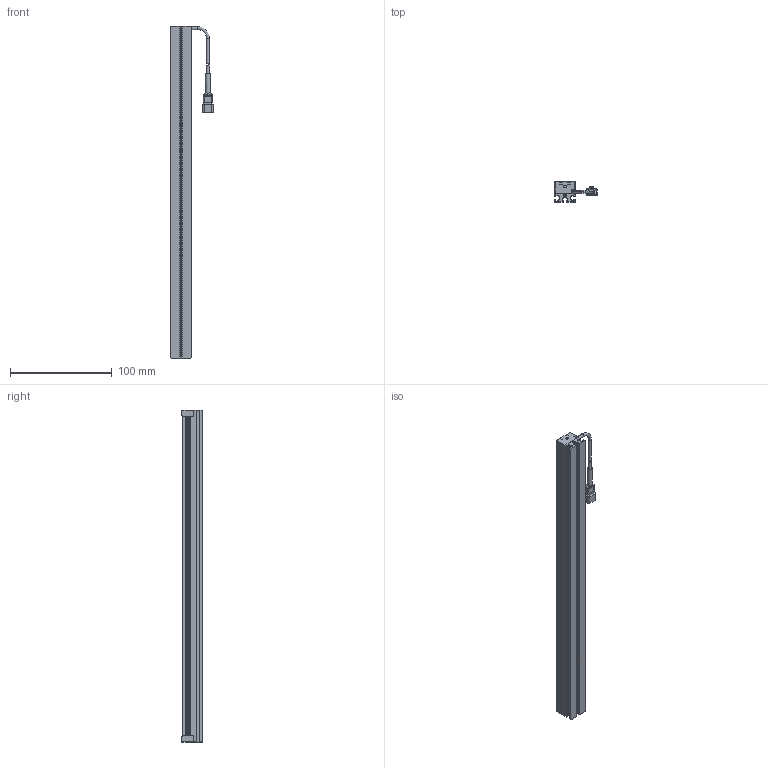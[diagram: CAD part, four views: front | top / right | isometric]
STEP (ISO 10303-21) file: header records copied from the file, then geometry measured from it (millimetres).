
FILE_DESCRIPTION (( 'STEP AP203' ), '1' );
FILE_NAME ('41x16_LDL2-314X16GR2.STEP', '2024-09-30T07:38:58', ( 'CCS' ), ( 'シーシーエス株式会社' ), 'SwSTEP 2.0', 'SolidWorks 2022', '' );
FILE_SCHEMA (( 'CONFIG_CONTROL_DESIGN' ));
Length unit declared in the file: millimetre
Products named in the file (7): 41x16_LDL2-314X16GR2; レンズ_LDL2-314X16GR2_11; SMケーブル_LDL2-314X16GR2_パターン2; ねじ_LDL2-314X16GR2_M2x12_CAP(三価ｸﾛﾑ黒色); ブロックA_LDL2-314X16GR2; フレーム_LDL2-314X16GR2; ブロックB_LDL2-314X16GR2
Assembly tree (9 placements, depth 2):
  41x16_LDL2-314X16GR2
    フレーム_LDL2-314X16GR2
    レンズ_LDL2-314X16GR2_11
    ブロックA_LDL2-314X16GR2
    ブロックB_LDL2-314X16GR2
    ねじ_LDL2-314X16GR2_M2x12_CAP(三価ｸﾛﾑ黒色)  x4
    SMケーブル_LDL2-314X16GR2_パターン2
Bounding box: 41.75 x 20 x 326 mm (x, y, z)
Volume: 101252.5 mm3; surface area: 66646.2 mm2
Topology: 10 solids, 11 shells, 430 faces, 1083 edges, 685 vertices
Faces by surface type: plane 260, cylinder 92, bspline 44, torus 18, cone 16
Entity records: 13192 total; most frequent: CARTESIAN_POINT 3992, ORIENTED_EDGE 1814, DIRECTION 1619, EDGE_CURVE 907, VECTOR 639, LINE 639, VERTEX_POINT 586, AXIS2_PLACEMENT_3D 490
